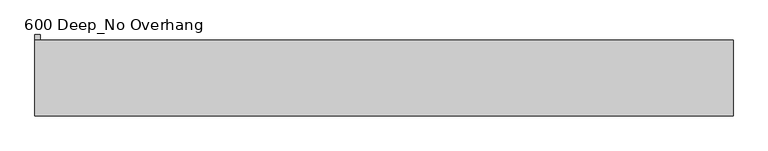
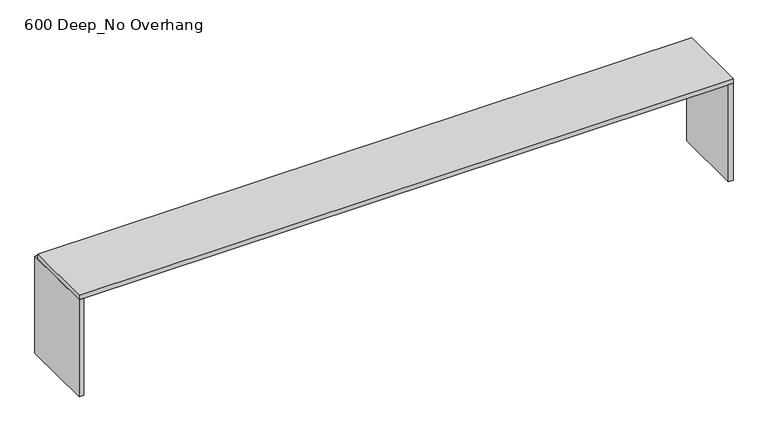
"""IFC4 building model written with IfcOpenShell, lengths in millimetres: furniture geometry, Benchtop_Optional Hole_I Shaped_CAS : 600 Deep_No Overhang."""

import ifcopenshell
import ifcopenshell.guid

model = None  # the IFC model being written
_history = None  # IfcOwnerHistory: only IFC2X3 demands one
_inside = {}  # id of a spatial element -> (the spatial element, [elements in it])
_under = {}  # id of a project, library or spatial element -> (it, [spatial elements below it])
_declared = {}  # id of a project -> (the project, [libraries it declares])
_typed = {}  # id of a type object -> (the type object, [elements of that type])
_made_of = {}  # id of a material, layer set ... -> (it, [elements and type objects made of it])


def new_model(schema):
    """Start an empty IFC model of exactly this schema.

    Asked for "IFC4X3", IfcOpenShell would pick the latest addendum, in which some entities
    have other attributes; the version numbers below select the first issue.
    IFC2X3 requires an IfcOwnerHistory on every rooted entity: one is made here for all.
    """
    global model, _history
    if schema == "IFC4X3":
        model = ifcopenshell.file(schema_version=(4, 3, 0, 0))
    else:
        model = ifcopenshell.file(schema=schema)
    _inside.clear()
    _under.clear()
    _declared.clear()
    _typed.clear()
    _made_of.clear()
    _history = None
    if model.schema == "IFC2X3":
        org = make("IfcOrganization", Name="unknown")
        user = make(
            "IfcPersonAndOrganization",
            ThePerson=make("IfcPerson", FamilyName="unknown"),
            TheOrganization=org,
        )
        app = make(
            "IfcApplication",
            ApplicationDeveloper=org,
            Version="unknown",
            ApplicationFullName="unknown",
            ApplicationIdentifier="unknown",
        )
        _history = make(
            "IfcOwnerHistory",
            OwningUser=user,
            OwningApplication=app,
            ChangeAction="ADDED",
            CreationDate=0,
        )
    return model


def make(cls, **values):
    """One entity of the class cls with the attributes given. An attribute that is None is left unset."""
    return model.create_entity(
        cls, **{name: value for name, value in values.items() if value is not None}
    )


def rooted(cls, **values):
    """An entity with a GlobalId (a new one), such as an element, a storey or a relation."""
    return make(cls, GlobalId=ifcopenshell.guid.new(), OwnerHistory=_history, **values)


def si_unit(unit_type, name, prefix=None):
    """IfcSIUnit, for example si_unit("LENGTHUNIT", "METRE", prefix="MILLI")."""
    return make("IfcSIUnit", UnitType=unit_type, Prefix=prefix, Name=name)


def assignment(units):
    """IfcUnitAssignment: the units of a project."""
    return None if units is None else make("IfcUnitAssignment", Units=units)


def point(xyz):
    """IfcCartesianPoint."""
    return None if xyz is None else make("IfcCartesianPoint", Coordinates=xyz)


def direction(xyz):
    """IfcDirection."""
    return None if xyz is None else make("IfcDirection", DirectionRatios=xyz)


def frame(location, z_axis=None, x_axis=None):
    """IfcAxis2Placement3D, a coordinate frame: its origin and axes. An axis left out is left unset."""
    return make(
        "IfcAxis2Placement3D",
        Location=point(location),
        Axis=direction(z_axis),
        RefDirection=direction(x_axis),
    )


def origin():
    """The frame at (0, 0, 0) with its axes left unset."""
    return frame((0.0, 0.0, 0.0))


def origin_with_axes():
    """The frame at (0, 0, 0) with the z axis (0, 0, 1) and the x axis (1, 0, 0) written out."""
    return frame((0.0, 0.0, 0.0), z_axis=(0.0, 0.0, 1.0), x_axis=(1.0, 0.0, 0.0))


def place(relative_to, where):
    """IfcLocalPlacement: puts the frame where relative to a parent placement (None: the world)."""
    return make(
        "IfcLocalPlacement", PlacementRelTo=relative_to, RelativePlacement=where
    )


def context(
    kind, dimensions, precision=None, world=None, true_north=None, identifier=None
):
    """IfcGeometricRepresentationContext, for example the 3D "Model" context."""
    return make(
        "IfcGeometricRepresentationContext",
        ContextIdentifier=identifier,
        ContextType=kind,
        CoordinateSpaceDimension=dimensions,
        Precision=precision,
        WorldCoordinateSystem=world,
        TrueNorth=true_north,
    )


def project(units=None, contexts=None):
    """IfcProject with its units and contexts."""
    return rooted(
        "IfcProject",
        Name="project",
        RepresentationContexts=contexts,
        UnitsInContext=assignment(units),
    )


def spatial(cls, under=None, at=None, **own):
    """A site, building, storey or space (cls), placed at a placement, below another one or the project."""
    s = rooted(cls, ObjectPlacement=at, **own)
    if under is not None:
        _under.setdefault(under.id(), (under, []))[1].append(s)
    return s


def polyline(points):
    """IfcPolyline through the points."""
    return make("IfcPolyline", Points=[point(p) for p in points])


def outline(outer, holes=None, kind="AREA"):
    """IfcArbitraryClosedProfileDef: a profile drawn as a closed curve; with holes, ...WithVoids."""
    if holes is None:
        return make("IfcArbitraryClosedProfileDef", ProfileType=kind, OuterCurve=outer)
    return make(
        "IfcArbitraryProfileDefWithVoids",
        ProfileType=kind,
        OuterCurve=outer,
        InnerCurves=holes,
    )


def extrude(swept, where, along, depth):
    """IfcExtrudedAreaSolid: the profile swept, set in the frame where, extruded along a direction by depth."""
    return make(
        "IfcExtrudedAreaSolid",
        SweptArea=swept,
        Position=where,
        ExtrudedDirection=direction(along),
        Depth=depth,
    )


def shape(context_of_items, identifier, shape_type, items):
    """IfcShapeRepresentation: the items that make up one representation, for example the "Body"."""
    return make(
        "IfcShapeRepresentation",
        ContextOfItems=context_of_items,
        RepresentationIdentifier=identifier,
        RepresentationType=shape_type,
        Items=items,
    )


def source(mapping_origin, context_of_items, identifier, shape_type, items):
    """IfcRepresentationMap: a shape defined once, which mapped items show again and again."""
    return make(
        "IfcRepresentationMap",
        MappingOrigin=mapping_origin,
        MappedRepresentation=shape(context_of_items, identifier, shape_type, items),
    )


def transform(
    local_origin,
    x_axis=None,
    y_axis=None,
    z_axis=None,
    scale=None,
    scale2=None,
    scale3=None,
    uniform=True,
):
    """IfcCartesianTransformationOperator3D, or its non-uniform kind. x_axis, y_axis, z_axis: its Axis1, 2, 3."""
    if uniform:
        return make(
            "IfcCartesianTransformationOperator3D",
            Axis1=direction(x_axis),
            Axis2=direction(y_axis),
            LocalOrigin=point(local_origin),
            Scale=scale,
            Axis3=direction(z_axis),
        )
    return make(
        "IfcCartesianTransformationOperator3DnonUniform",
        Axis1=direction(x_axis),
        Axis2=direction(y_axis),
        LocalOrigin=point(local_origin),
        Scale=scale,
        Axis3=direction(z_axis),
        Scale2=scale2,
        Scale3=scale3,
    )


def mapped(mapping_source, mapping_target):
    """IfcMappedItem: shows the shape of a source again, moved by a transform."""
    return make(
        "IfcMappedItem", MappingSource=mapping_source, MappingTarget=mapping_target
    )


def made_of(thing, what):
    """Note that an element or type object is made of a material, layer set ...; save() writes the relation."""
    if what is not None:
        _made_of.setdefault(what.id(), (what, []))[1].append(thing)
    return thing


def element(
    cls,
    number,
    at=None,
    inside=None,
    cuts=None,
    type_object=None,
    material=None,
    context=None,
    identifier="Body",
    shape_type=None,
    held_by="IfcProductDefinitionShape",
    body=None,
    shapes=None,
    **own,
):
    """One element of the class cls, such as IfcWall. Its Tag is "e" and its number.

    at: its placement. inside: the storey or other place that contains it. cuts: it is an
    opening in that element (IfcRelVoidsElement). A single representation is given by context,
    identifier, shape_type and body (its items); several are given by shapes. held_by: the class
    of the entity that holds the representations. save() writes the other relations.
    """
    e = rooted(cls, Tag="e%d" % number, ObjectPlacement=at, **own)
    if body is not None:
        shapes = [shape(context, identifier, shape_type, body)]
    if shapes is not None:
        e.Representation = make(held_by, Representations=shapes)
    if inside is not None:
        _inside.setdefault(inside.id(), (inside, []))[1].append(e)
    if cuts is not None:
        rooted(
            "IfcRelVoidsElement", RelatingBuildingElement=cuts, RelatedOpeningElement=e
        )
    if type_object is not None:
        _typed.setdefault(type_object.id(), (type_object, []))[1].append(e)
    return made_of(e, material)


def aggregate(whole, parts):
    """IfcRelAggregates: a whole, such as a stair, and the parts it consists of."""
    return rooted("IfcRelAggregates", RelatingObject=whole, RelatedObjects=parts)


def save(model, path):
    """Write the relations noted so far, then the file.

    IfcRelAggregates (storeys below a building ...), IfcRelContainedInSpatialStructure (elements
    in a storey), IfcRelDefinesByType, IfcRelAssociatesMaterial and IfcRelDeclares: one each for
    every whole, place, type object, material and project.
    """
    for whole, parts in _under.values():
        aggregate(whole, parts)
    for where, things in _inside.values():
        rooted(
            "IfcRelContainedInSpatialStructure",
            RelatedElements=things,
            RelatingStructure=where,
        )
    for kind, things in _typed.values():
        rooted("IfcRelDefinesByType", RelatedObjects=things, RelatingType=kind)
    for what, things in _made_of.values():
        rooted("IfcRelAssociatesMaterial", RelatedObjects=things, RelatingMaterial=what)
    for by, libraries in _declared.values():
        rooted("IfcRelDeclares", RelatingContext=by, RelatedDefinitions=libraries)
    model.write(path)


def furniture_600_deep_no_overhang_b67c900d(model_context):
    return source(origin(), model_context, "Body", "SweptSolid", [
        extrude(outline(polyline([(4284.7008577, -600.0), (4284.7008577, 0.0), (4324.7008577, 0.0), (4324.7008577, -600.0), (4284.7008577, -600.0)])), origin_with_axes(), (0.0, 0.0, 1.0), 860.0),
        extrude(outline(polyline([(-1115.2996736, 40.0), (-1115.2996736, -600.0), (-1155.2996736, -600.0), (-1155.2996736, 40.0), (-1115.2996736, 40.0)])), origin_with_axes(), (0.0, 0.0, 1.0), 860.0),
        extrude(outline(polyline([(4324.7008577, 0.0), (4324.7008577, -600.0), (-1155.2996736, -600.0), (-1155.2996736, 0.0), (4324.7008577, 0.0)])), frame((0.0, 0.0, 860.0), z_axis=(0.0, 0.0, 1.0), x_axis=(1.0, 0.0, 0.0)), (0.0, 0.0, 1.0), 40.0),
    ])


if __name__ == "__main__":
    model = new_model("IFC4")
    model_context = context("Model", 3, world=origin())
    ifc_project = project(units=[si_unit("LENGTHUNIT", "METRE", prefix="MILLI")], contexts=[model_context])
    site = spatial("IfcSite", under=ifc_project)
    building = spatial("IfcBuilding", under=site)
    placement = place(None, origin())
    furniture_600_deep_no_overhang_shape = furniture_600_deep_no_overhang_b67c900d(model_context)
    element("IfcFurniture", 1, ObjectType="Benchtop_Optional Hole_I Shaped_CAS : 600 Deep_No Overhang", at=placement, inside=building, context=model_context, shape_type="MappedRepresentation", body=[
        mapped(furniture_600_deep_no_overhang_shape, transform((0.0, 0.0, 0.0), x_axis=(1.0, 0.0, 0.0), y_axis=(0.0, 1.0, 0.0), z_axis=(0.0, 0.0, 1.0))),
    ])
    save(model, "model.ifc")
